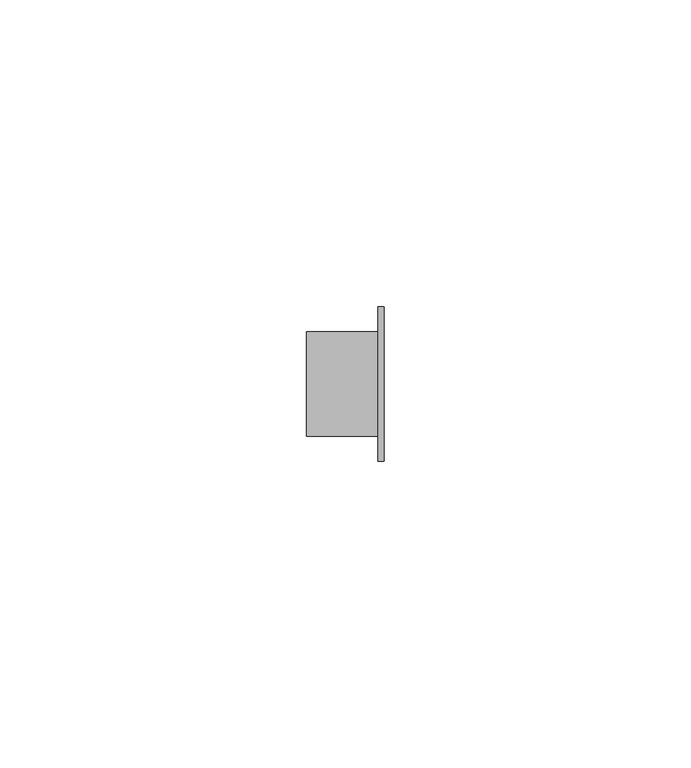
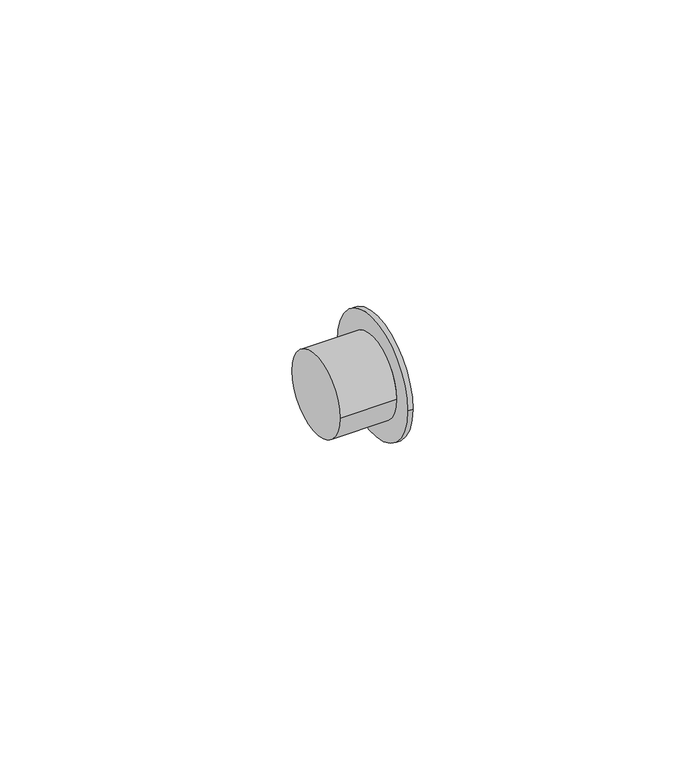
"""IFC4 building model written with IfcOpenShell, lengths in millimetres: pipe fitting geometry, Bucha de redução reta - Soldada - CU : Padrão."""

from ifc_helpers import new_model, si_unit, frame, origin, place, context, project, spatial, circle_curve, source, transform, mapped, element, save
from ifc_brep_helpers import plane_surface, cylinder_surface, advanced_brep


def pipe_fitting_13562042(model_context):
    return source(origin(), model_context, "Body", "AdvancedBrep", [
        advanced_brep(
        [(0.0, -8.4937, 0.0), (0.0, 8.4937, 0.0), (11.6589, -8.4937, 0.0), (11.6589, 8.4937, 0.0), (12.6589, -12.6, 0.0), (12.6589, 12.6, 0.0), (11.6589, 12.6, 0.0), (11.6589, -12.6, 0.0)],
        [
            (0, 1, circle_curve(frame((0.0, 0.0, 0.0), z_axis=(-1.0, 0.0, 0.0), x_axis=(0.0, 1.0, 0.0)), 8.4937)),
            (1, 0, circle_curve(frame((0.0, 0.0, 0.0), z_axis=(-1.0, 0.0, 0.0), x_axis=(0.0, 1.0, 0.0)), 8.4937)),
            (0, 2),
            (2, 3, circle_curve(frame((11.6589, 0.0, 0.0), z_axis=(-1.0, 0.0, 0.0), x_axis=(0.0, 1.0, 0.0)), 8.4937)),
            (3, 1),
            (3, 2, circle_curve(frame((11.6589, 0.0, 0.0), z_axis=(-1.0, 0.0, 0.0), x_axis=(0.0, 1.0, 0.0)), 8.4937)),
            (4, 5, circle_curve(frame((12.6589, 0.0, 0.0), z_axis=(1.0, 0.0, 0.0), x_axis=(0.0, 1.0, 0.0)), 12.6)),
            (5, 4, circle_curve(frame((12.6589, 0.0, 0.0), z_axis=(1.0, 0.0, 0.0), x_axis=(0.0, 1.0, 0.0)), 12.6)),
            (6, 7, circle_curve(frame((11.6589, 0.0, 0.0), z_axis=(1.0, 0.0, 0.0), x_axis=(0.0, 1.0, 0.0)), 12.6)),
            (7, 4),
            (5, 6),
            (7, 6, circle_curve(frame((11.6589, 0.0, 0.0), z_axis=(1.0, 0.0, 0.0), x_axis=(0.0, 1.0, 0.0)), 12.6)),
        ],
        [
            plane_surface(frame((0.0, 0.0, 0.0), z_axis=(-1.0, 0.0, 0.0), x_axis=(0.0, 0.0, 1.0))),
            cylinder_surface(frame((0.0, 0.0, 0.0), z_axis=(-1.0, 0.0, 0.0), x_axis=(0.0, 1.0, 0.0)), 8.4937),
            plane_surface(frame((12.6589, 0.0, 0.0), z_axis=(1.0, 0.0, 0.0), x_axis=(0.0, 0.0, 1.0))),
            cylinder_surface(frame((11.6589, 0.0, 0.0), z_axis=(-1.0, 0.0, 0.0), x_axis=(0.0, 1.0, 0.0)), 12.6),
            plane_surface(frame((11.6589, 0.0, 0.0), z_axis=(-1.0, 0.0, 0.0), x_axis=(0.0, 0.0, 1.0))),
        ],
        [
            (0, [[1, 2]]),
            (1, [[-1, 3, 4, 5]]),
            (1, [[-2, -5, 6, -3]]),
            (2, [[7, 8]]),
            (3, [[9, 10, -8, 11]]),
            (3, [[12, -11, -7, -10]]),
            (4, [[-9, -12], [-4, -6]]),
        ],
    ),
    ])


if __name__ == "__main__":
    model = new_model("IFC4")
    model_context = context("Model", 3, world=origin())
    ifc_project = project(units=[si_unit("LENGTHUNIT", "METRE", prefix="MILLI")], contexts=[model_context])
    site = spatial("IfcSite", under=ifc_project)
    building = spatial("IfcBuilding", under=site)
    placement = place(None, origin())
    pipe_fitting_shape = pipe_fitting_13562042(model_context)
    element("IfcPipeFitting", 1, ObjectType="Bucha de redução reta - Soldada - CU : Padrão", at=placement, inside=building, context=model_context, shape_type="MappedRepresentation", body=[
        mapped(pipe_fitting_shape, transform((0.0, 0.0, 0.0), x_axis=(1.0, 0.0, 0.0), y_axis=(0.0, 1.0, 0.0), z_axis=(0.0, 0.0, 1.0))),
    ])
    save(model, "model.ifc")
